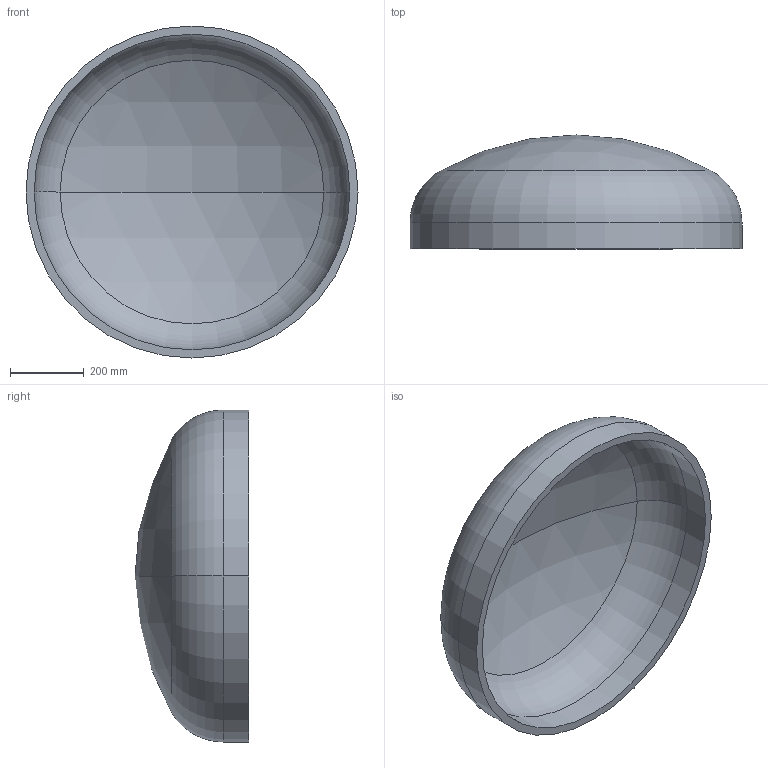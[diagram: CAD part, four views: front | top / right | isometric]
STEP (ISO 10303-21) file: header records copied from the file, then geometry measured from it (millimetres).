
FILE_DESCRIPTION (( 'STEP AP203' ), '1' );
FILE_NAME ('DIN 28013 Korbbogenform_-_Boden DIN 28013 - 900 x 70 - I - s=22.step', '2016-07-01T08:27:50', ( '' ), ( '' ), 'SwSTEP 2.0', 'SolidWorks 2013', '' );
FILE_SCHEMA (( 'CONFIG_CONTROL_DESIGN' ));
Length unit declared in the file: millimetre
Products named in the file (1): DIN 28013 Korbbogenform_-_Boden DIN 28013 - 900 x 70 - I - s=22
Bounding box: 900 x 308.56 x 900 mm (x, y, z)
Volume: 23057748.1 mm3; surface area: 2157855 mm2
Topology: 1 solids, 1 shells, 13 faces, 24 edges, 14 vertices
Faces by surface type: torus 4, cylinder 4, sphere 4, plane 1
Entity records: 407 total; most frequent: DIRECTION 72, CARTESIAN_POINT 52, ORIENTED_EDGE 48, AXIS2_PLACEMENT_3D 34, EDGE_CURVE 24, CIRCLE 20, VERTEX_POINT 14, EDGE_LOOP 14
